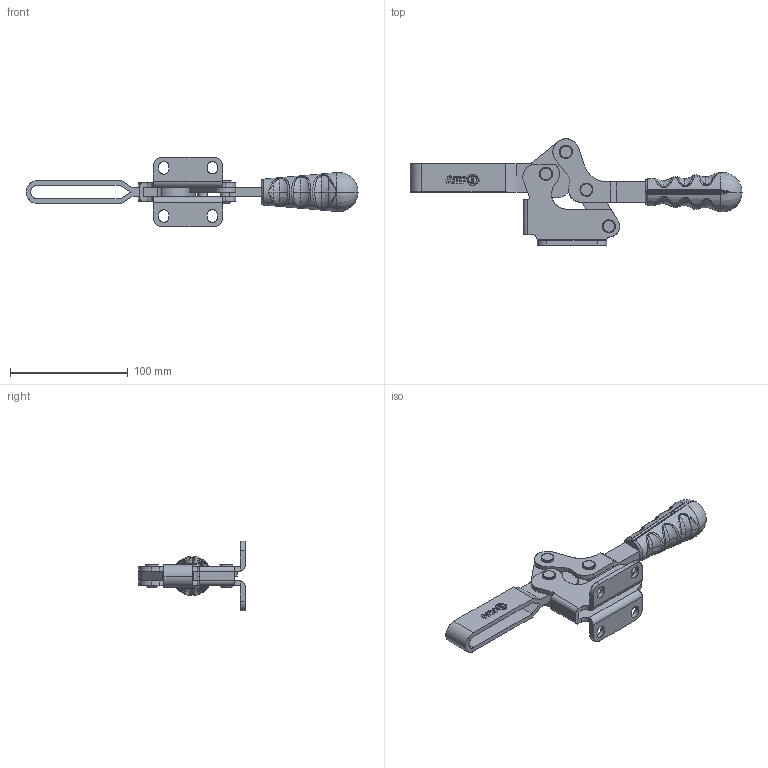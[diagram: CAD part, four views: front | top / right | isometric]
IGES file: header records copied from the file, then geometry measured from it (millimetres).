
Start section: Comment
Global section: file name: 23502b.igs; native system:  By Spatial Corp.; preprocessor: XPlus PS/IGES 3.0; author: Author; organization: Title; date: 20050217.083945; units: inch
Bounding box: 281.89 x 90.25 x 59 mm (x, y, z)
Surface area: 65581.6 mm2 (no closed solid volume)
Topology: 0 solids, 0 shells, 417 faces, 2159 edges, 2152 vertices
Faces by surface type: revolution 207, extrusion 158, bspline 52
